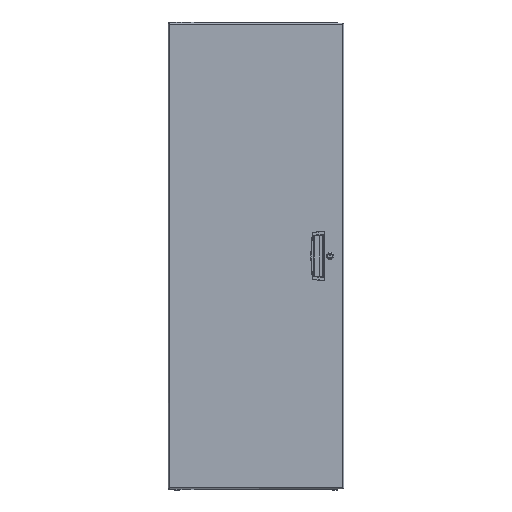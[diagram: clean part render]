
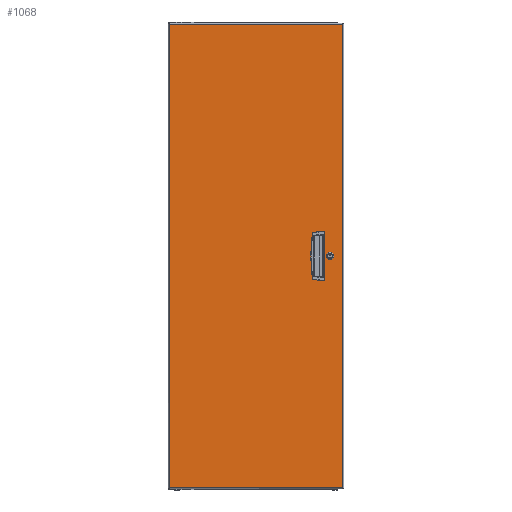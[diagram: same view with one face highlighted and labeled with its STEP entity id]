
A CAD part, top view. The second image highlights one B-rep face of the part: STEP entity #1068.
In plain terms, the highlighted planar face has unit normal (0, 0, 1).
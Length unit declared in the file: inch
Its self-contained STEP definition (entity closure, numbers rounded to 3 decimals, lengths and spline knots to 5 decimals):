
#1=DIRECTION('',(0.,-1.,0.));
#2=VECTOR('',#1,5.2);
#3=CARTESIAN_POINT('',(7.8275,2.6,0.));
#4=LINE('',#3,#2);
#5=DIRECTION('',(1.,0.,0.));
#6=VECTOR('',#5,1.21);
#7=CARTESIAN_POINT('',(6.6175,2.6,0.));
#8=LINE('',#7,#6);
#9=DIRECTION('',(0.,1.,0.));
#10=VECTOR('',#9,5.2);
#11=CARTESIAN_POINT('',(6.6175,-2.6,0.));
#12=LINE('',#11,#10);
#13=DIRECTION('',(-1.,0.,0.));
#14=VECTOR('',#13,1.21);
#15=CARTESIAN_POINT('',(7.8275,-2.6,0.));
#16=LINE('',#15,#14);
#17=CARTESIAN_POINT('',(8.5975,0.,0.));
#18=DIRECTION('',(0.,0.,1.));
#19=DIRECTION('',(0.521,-0.853,0.));
#20=AXIS2_PLACEMENT_3D('',#17,#18,#19);
#22=DIRECTION('',(1.,0.,0.));
#23=VECTOR('',#22,0.39102);
#24=CARTESIAN_POINT('',(8.40199,0.32,0.));
#25=LINE('',#24,#23);
#26=CARTESIAN_POINT('',(8.5975,0.,0.));
#27=DIRECTION('',(0.,0.,1.));
#28=DIRECTION('',(-0.521,0.853,0.));
#29=AXIS2_PLACEMENT_3D('',#26,#27,#28);
#31=DIRECTION('',(-1.,0.,0.));
#32=VECTOR('',#31,0.39102);
#33=CARTESIAN_POINT('',(8.79301,-0.32,0.));
#34=LINE('',#33,#32);
#47=DIRECTION('',(0.,-1.,0.));
#48=VECTOR('',#47,53.876);
#49=CARTESIAN_POINT('',(10.0785,26.938,0.));
#50=LINE('',#49,#48);
#153=DIRECTION('',(1.,0.,0.));
#154=VECTOR('',#153,20.157);
#155=CARTESIAN_POINT('',(-10.0785,26.938,0.));
#156=LINE('',#155,#154);
#176=DIRECTION('',(0.,1.,0.));
#177=VECTOR('',#176,53.876);
#178=CARTESIAN_POINT('',(-10.0785,-26.938,0.));
#179=LINE('',#178,#177);
#227=DIRECTION('',(-1.,0.,0.));
#228=VECTOR('',#227,20.157);
#229=CARTESIAN_POINT('',(10.0785,-26.938,0.));
#230=LINE('',#229,#228);
#833=CARTESIAN_POINT('',(-10.0785,26.938,0.));
#834=CARTESIAN_POINT('',(10.0785,26.938,0.));
#835=VERTEX_POINT('',#833);
#836=VERTEX_POINT('',#834);
#849=CARTESIAN_POINT('',(10.0785,-26.938,0.));
#850=CARTESIAN_POINT('',(-10.0785,-26.938,0.));
#851=VERTEX_POINT('',#849);
#852=VERTEX_POINT('',#850);
#921=CARTESIAN_POINT('',(7.8275,2.6,0.));
#922=CARTESIAN_POINT('',(7.8275,-2.6,0.));
#923=VERTEX_POINT('',#921);
#924=VERTEX_POINT('',#922);
#925=CARTESIAN_POINT('',(6.6175,-2.6,0.));
#926=VERTEX_POINT('',#925);
#927=CARTESIAN_POINT('',(6.6175,2.6,0.));
#928=VERTEX_POINT('',#927);
#929=CARTESIAN_POINT('',(8.79301,-0.32,0.));
#930=CARTESIAN_POINT('',(8.79301,0.32,0.));
#931=VERTEX_POINT('',#929);
#932=VERTEX_POINT('',#930);
#933=CARTESIAN_POINT('',(8.40199,-0.32,0.));
#934=VERTEX_POINT('',#933);
#935=CARTESIAN_POINT('',(8.40199,0.32,0.));
#936=VERTEX_POINT('',#935);
#1033=CARTESIAN_POINT('',(0.,0.,0.));
#1034=DIRECTION('',(0.,0.,1.));
#1035=DIRECTION('',(1.,0.,0.));
#1036=AXIS2_PLACEMENT_3D('',#1033,#1034,#1035);
#1037=PLANE('',#1036);
#1039=ORIENTED_EDGE('',*,*,#1038,.T.);
#1041=ORIENTED_EDGE('',*,*,#1040,.T.);
#1043=ORIENTED_EDGE('',*,*,#1042,.T.);
#1045=ORIENTED_EDGE('',*,*,#1044,.T.);
#1046=EDGE_LOOP('',(#1039,#1041,#1043,#1045));
#1047=FACE_OUTER_BOUND('',#1046,.F.);
#1049=ORIENTED_EDGE('',*,*,#1048,.F.);
#1051=ORIENTED_EDGE('',*,*,#1050,.F.);
#1053=ORIENTED_EDGE('',*,*,#1052,.F.);
#1055=ORIENTED_EDGE('',*,*,#1054,.F.);
#1056=EDGE_LOOP('',(#1049,#1051,#1053,#1055));
#1057=FACE_BOUND('',#1056,.F.);
#1059=ORIENTED_EDGE('',*,*,#1058,.T.);
#1061=ORIENTED_EDGE('',*,*,#1060,.F.);
#1063=ORIENTED_EDGE('',*,*,#1062,.T.);
#1065=ORIENTED_EDGE('',*,*,#1064,.F.);
#1066=EDGE_LOOP('',(#1059,#1061,#1063,#1065));
#1067=FACE_BOUND('',#1066,.F.);
#1068=ADVANCED_FACE('',(#1047,#1057,#1067),#1037,.T.);
#21=CIRCLE('',#20,0.375);
#30=CIRCLE('',#29,0.375);
#1038=EDGE_CURVE('',#836,#851,#50,.T.);
#1040=EDGE_CURVE('',#851,#852,#230,.T.);
#1042=EDGE_CURVE('',#852,#835,#179,.T.);
#1044=EDGE_CURVE('',#835,#836,#156,.T.);
#1048=EDGE_CURVE('',#923,#924,#4,.T.);
#1050=EDGE_CURVE('',#928,#923,#8,.T.);
#1052=EDGE_CURVE('',#926,#928,#12,.T.);
#1054=EDGE_CURVE('',#924,#926,#16,.T.);
#1058=EDGE_CURVE('',#931,#932,#21,.T.);
#1060=EDGE_CURVE('',#936,#932,#25,.T.);
#1062=EDGE_CURVE('',#936,#934,#30,.T.);
#1064=EDGE_CURVE('',#931,#934,#34,.T.);
